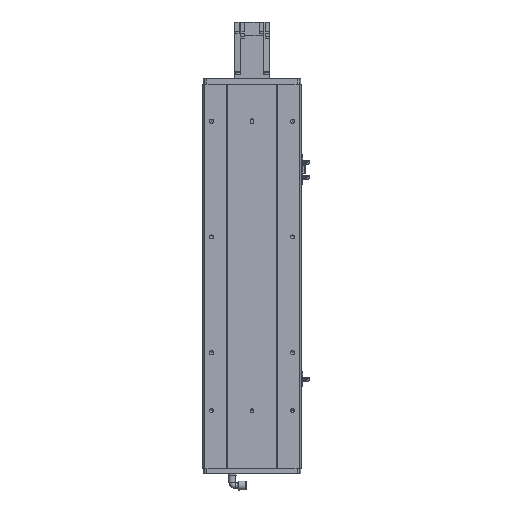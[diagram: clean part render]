
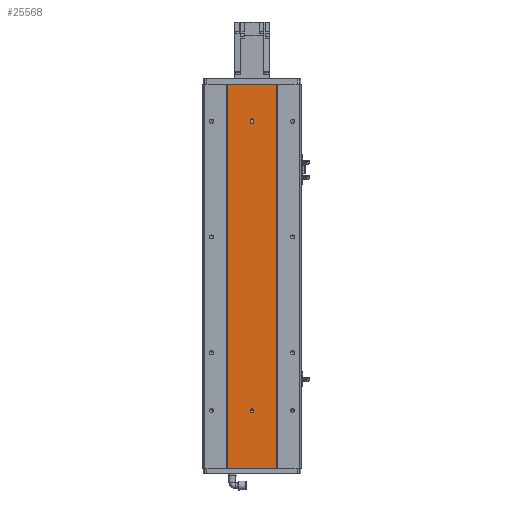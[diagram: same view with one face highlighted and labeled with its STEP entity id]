
A CAD part, top view. The second image highlights one B-rep face of the part: STEP entity #25568.
In plain terms, the highlighted planar face has unit normal (0, 0, 1).
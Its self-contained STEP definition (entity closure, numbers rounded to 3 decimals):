
#24 = VERTEX_POINT ( 'NONE', #35927 ) ;
#349 = CARTESIAN_POINT ( 'NONE',  ( 42., -664., 40.499 ) ) ;
#392 = DIRECTION ( 'NONE',  ( 1., 0., 0. ) ) ;
#535 = CARTESIAN_POINT ( 'NONE',  ( -42., 0., 40.499 ) ) ;
#925 = CARTESIAN_POINT ( 'NONE',  ( 3., -65., 40.499 ) ) ;
#1249 = ORIENTED_EDGE ( 'NONE', *, *, #12513, .F. ) ;
#1872 = VERTEX_POINT ( 'NONE', #19768 ) ;
#3003 = ORIENTED_EDGE ( 'NONE', *, *, #24487, .F. ) ;
#3864 = VERTEX_POINT ( 'NONE', #5892 ) ;
#4475 = DIRECTION ( 'NONE',  ( 0., 0., 1. ) ) ;
#4788 = DIRECTION ( 'NONE',  ( 1., 0., 0. ) ) ;
#5032 = DIRECTION ( 'NONE',  ( 0., 0., 1. ) ) ;
#5247 = CARTESIAN_POINT ( 'NONE',  ( 3., -564., 40.499 ) ) ;
#5438 = CARTESIAN_POINT ( 'NONE',  ( 42., -664., 40.499 ) ) ;
#5484 = CARTESIAN_POINT ( 'NONE',  ( -42., -664., 40.499 ) ) ;
#5731 = VECTOR ( 'NONE', #34137, 1000. ) ;
#5892 = CARTESIAN_POINT ( 'NONE',  ( -3., -564., 40.499 ) ) ;
#5897 = EDGE_LOOP ( 'NONE', ( #32500, #10854, #3003, #25045 ) ) ;
#5919 = DIRECTION ( 'NONE',  ( 0., 0., 1. ) ) ;
#6199 = VECTOR ( 'NONE', #32025, 1000. ) ;
#6226 = EDGE_CURVE ( 'NONE', #31132, #1872, #10149, .T. ) ;
#6333 = EDGE_CURVE ( 'NONE', #16649, #19941, #9686, .T. ) ;
#6352 = ORIENTED_EDGE ( 'NONE', *, *, #6226, .T. ) ;
#7223 = CARTESIAN_POINT ( 'NONE',  ( -3., -65., 40.499 ) ) ;
#7248 = EDGE_CURVE ( 'NONE', #24, #1872, #10561, .T. ) ;
#7373 = VERTEX_POINT ( 'NONE', #7223 ) ;
#7853 = VERTEX_POINT ( 'NONE', #925 ) ;
#7990 = DIRECTION ( 'NONE',  ( 0., 1., 0. ) ) ;
#8842 = CARTESIAN_POINT ( 'NONE',  ( -42., -664., 40.499 ) ) ;
#8927 = ORIENTED_EDGE ( 'NONE', *, *, #29335, .F. ) ;
#8939 = AXIS2_PLACEMENT_3D ( 'NONE', #26589, #4475, #18416 ) ;
#9129 = EDGE_CURVE ( 'NONE', #7853, #16649, #23978, .T. ) ;
#9301 = CARTESIAN_POINT ( 'NONE',  ( 0., -564., 40.499 ) ) ;
#9538 = VECTOR ( 'NONE', #30092, 1000. ) ;
#9686 = CIRCLE ( 'NONE', #11956, 3. ) ;
#10149 = LINE ( 'NONE', #5438, #18864 ) ;
#10328 = EDGE_CURVE ( 'NONE', #14067, #31132, #27581, .T. ) ;
#10561 = LINE ( 'NONE', #535, #5731 ) ;
#10854 = ORIENTED_EDGE ( 'NONE', *, *, #9129, .F. ) ;
#11956 = AXIS2_PLACEMENT_3D ( 'NONE', #28122, #16930, #14444 ) ;
#12513 = EDGE_CURVE ( 'NONE', #14067, #24, #16091, .T. ) ;
#14067 = VERTEX_POINT ( 'NONE', #21305 ) ;
#14444 = DIRECTION ( 'NONE',  ( 1., 0., 0. ) ) ;
#14725 = EDGE_LOOP ( 'NONE', ( #29771, #1249, #24707, #6352 ) ) ;
#15628 = AXIS2_PLACEMENT_3D ( 'NONE', #8842, #5919, #392 ) ;
#16091 = LINE ( 'NONE', #33280, #9538 ) ;
#16649 = VERTEX_POINT ( 'NONE', #18156 ) ;
#16930 = DIRECTION ( 'NONE',  ( 0., 0., 1. ) ) ;
#17034 = AXIS2_PLACEMENT_3D ( 'NONE', #35190, #5032, #4788 ) ;
#18156 = CARTESIAN_POINT ( 'NONE',  ( 3., -63., 40.499 ) ) ;
#18416 = DIRECTION ( 'NONE',  ( 1., 0., 0. ) ) ;
#18431 = VECTOR ( 'NONE', #24659, 1000. ) ;
#18864 = VECTOR ( 'NONE', #7990, 1000. ) ;
#19768 = CARTESIAN_POINT ( 'NONE',  ( 42., 0., 40.499 ) ) ;
#19941 = VERTEX_POINT ( 'NONE', #30998 ) ;
#19950 = FACE_BOUND ( 'NONE', #5897, .T. ) ;
#20071 = CIRCLE ( 'NONE', #25155, 3. ) ;
#20834 = FACE_BOUND ( 'NONE', #23353, .T. ) ;
#21305 = CARTESIAN_POINT ( 'NONE',  ( -42., -664., 40.499 ) ) ;
#21644 = DIRECTION ( 'NONE',  ( 0., 1., 0. ) ) ;
#22637 = PLANE ( 'NONE',  #15628 ) ;
#23353 = EDGE_LOOP ( 'NONE', ( #33952, #8927 ) ) ;
#23507 = VECTOR ( 'NONE', #21644, 1000. ) ;
#23978 = LINE ( 'NONE', #35672, #23507 ) ;
#24487 = EDGE_CURVE ( 'NONE', #7373, #7853, #25743, .T. ) ;
#24659 = DIRECTION ( 'NONE',  ( 1., 0., 0. ) ) ;
#24707 = ORIENTED_EDGE ( 'NONE', *, *, #10328, .T. ) ;
#25045 = ORIENTED_EDGE ( 'NONE', *, *, #30761, .F. ) ;
#25155 = AXIS2_PLACEMENT_3D ( 'NONE', #9301, #28926, #29290 ) ;
#25568 = ADVANCED_FACE ( 'NONE', ( #19950, #20834, #34803 ), #22637, .T. ) ;
#25743 = CIRCLE ( 'NONE', #17034, 3. ) ;
#26589 = CARTESIAN_POINT ( 'NONE',  ( 0., -564., 40.499 ) ) ;
#26781 = CARTESIAN_POINT ( 'NONE',  ( -3., -63., 40.499 ) ) ;
#27581 = LINE ( 'NONE', #5484, #18431 ) ;
#28122 = CARTESIAN_POINT ( 'NONE',  ( 0., -63., 40.499 ) ) ;
#28926 = DIRECTION ( 'NONE',  ( 0., 0., 1. ) ) ;
#29120 = VERTEX_POINT ( 'NONE', #5247 ) ;
#29290 = DIRECTION ( 'NONE',  ( 1., 0., 0. ) ) ;
#29335 = EDGE_CURVE ( 'NONE', #3864, #29120, #30036, .T. ) ;
#29771 = ORIENTED_EDGE ( 'NONE', *, *, #7248, .F. ) ;
#30036 = CIRCLE ( 'NONE', #8939, 3. ) ;
#30092 = DIRECTION ( 'NONE',  ( 0., 1., 0. ) ) ;
#30640 = LINE ( 'NONE', #26781, #6199 ) ;
#30761 = EDGE_CURVE ( 'NONE', #19941, #7373, #30640, .T. ) ;
#30998 = CARTESIAN_POINT ( 'NONE',  ( -3., -63., 40.499 ) ) ;
#31132 = VERTEX_POINT ( 'NONE', #349 ) ;
#32025 = DIRECTION ( 'NONE',  ( 0., -1., 0. ) ) ;
#32296 = EDGE_CURVE ( 'NONE', #29120, #3864, #20071, .T. ) ;
#32500 = ORIENTED_EDGE ( 'NONE', *, *, #6333, .F. ) ;
#33280 = CARTESIAN_POINT ( 'NONE',  ( -42., -664., 40.499 ) ) ;
#33952 = ORIENTED_EDGE ( 'NONE', *, *, #32296, .F. ) ;
#34137 = DIRECTION ( 'NONE',  ( 1., 0., 0. ) ) ;
#34803 = FACE_OUTER_BOUND ( 'NONE', #14725, .T. ) ;
#35190 = CARTESIAN_POINT ( 'NONE',  ( 0., -65., 40.499 ) ) ;
#35672 = CARTESIAN_POINT ( 'NONE',  ( 3., -63., 40.499 ) ) ;
#35927 = CARTESIAN_POINT ( 'NONE',  ( -42., 0., 40.499 ) ) ;
